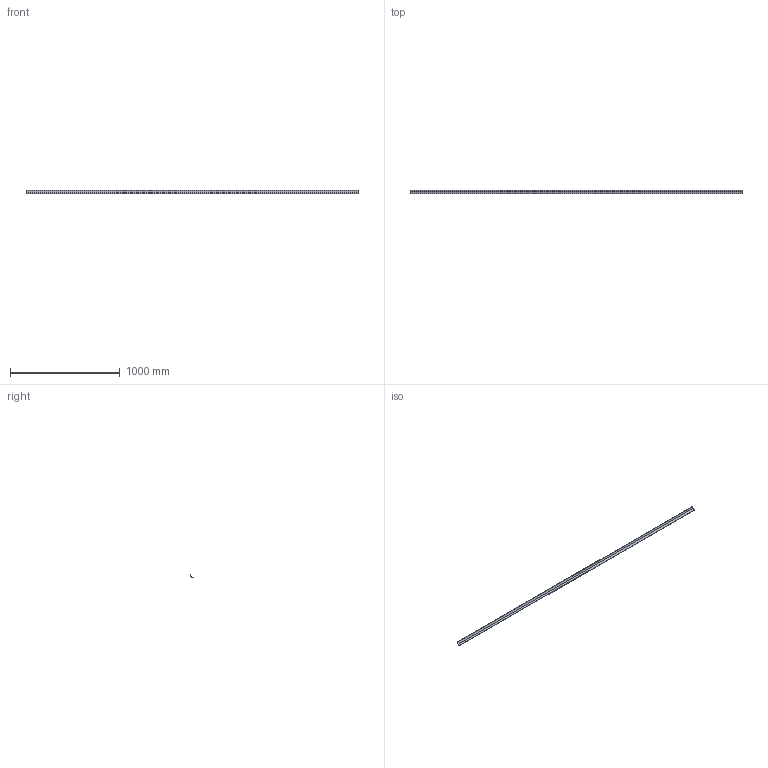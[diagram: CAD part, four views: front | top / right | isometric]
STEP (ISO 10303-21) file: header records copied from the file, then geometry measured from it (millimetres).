
FILE_DESCRIPTION (( 'STEP AP203' ), '1' );
FILE_NAME ('Corner Cover.STEP', '2026-04-20T12:48:00', ( '' ), ( '' ), 'SwSTEP 2.0', 'SolidWorks 2025', '' );
FILE_SCHEMA (( 'CONFIG_CONTROL_DESIGN' ));
Length unit declared in the file: millimetre
Products named in the file (1): Corner Cover
Bounding box: 3020 x 28.22 x 28.22 mm (x, y, z)
Volume: 167264.6 mm3; surface area: 280782.9 mm2
Topology: 1 solids, 1 shells, 15 faces, 39 edges, 26 vertices
Faces by surface type: plane 8, cylinder 7
Entity records: 544 total; most frequent: DIRECTION 85, CARTESIAN_POINT 81, ORIENTED_EDGE 78, EDGE_CURVE 39, AXIS2_PLACEMENT_3D 30, VERTEX_POINT 26, VECTOR 25, LINE 25
